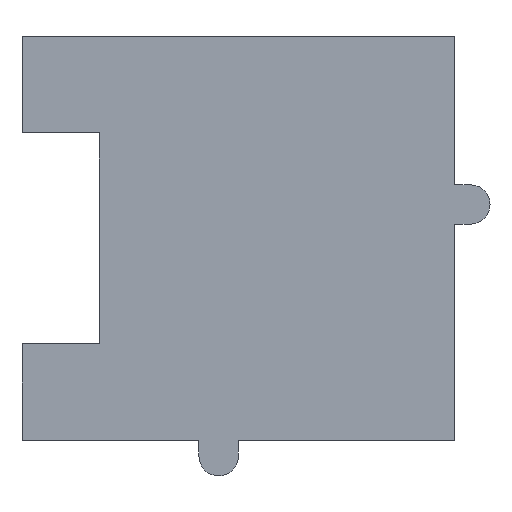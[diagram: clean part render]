
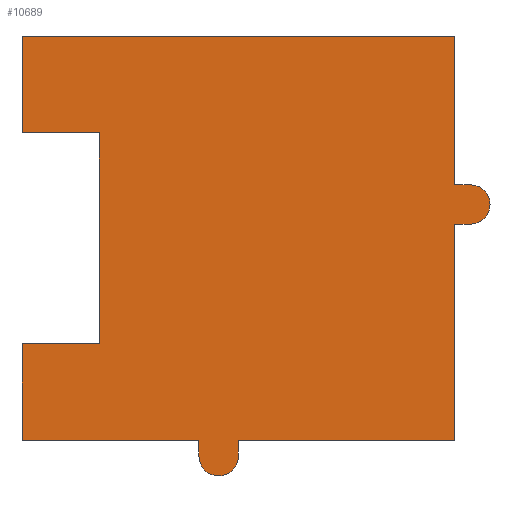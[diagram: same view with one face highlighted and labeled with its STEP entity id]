
A CAD part, front view. The second image highlights one B-rep face of the part: STEP entity #10689.
In plain terms, the highlighted planar face has unit normal (0, -1, 0).
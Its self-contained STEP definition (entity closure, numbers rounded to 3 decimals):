
#836 = VERTEX_POINT ( 'NONE', #8935 ) ;
#888 = ORIENTED_EDGE ( 'NONE', *, *, #14483, .T. ) ;
#1034 = VERTEX_POINT ( 'NONE', #10105 ) ;
#1042 = CARTESIAN_POINT ( 'NONE',  ( -1375., 0., 1285. ) ) ;
#1193 = EDGE_CURVE ( 'NONE', #14952, #5992, #12634, .T. ) ;
#1199 = LINE ( 'NONE', #12736, #13364 ) ;
#1330 = LINE ( 'NONE', #1042, #13005 ) ;
#1335 = CARTESIAN_POINT ( 'NONE',  ( -250., 0., -1385. ) ) ;
#1413 = VERTEX_POINT ( 'NONE', #12454 ) ;
#1702 = DIRECTION ( 'NONE',  ( 0., 0., 1. ) ) ;
#1842 = ORIENTED_EDGE ( 'NONE', *, *, #7591, .F. ) ;
#1952 = LINE ( 'NONE', #9688, #18340 ) ;
#1953 = VECTOR ( 'NONE', #15614, 1000. ) ;
#1954 = ORIENTED_EDGE ( 'NONE', *, *, #1193, .F. ) ;
#2162 = CARTESIAN_POINT ( 'NONE',  ( 1375., 0., 1285. ) ) ;
#2665 = ORIENTED_EDGE ( 'NONE', *, *, #11795, .F. ) ;
#2895 = LINE ( 'NONE', #8037, #15546 ) ;
#2899 = CARTESIAN_POINT ( 'NONE',  ( -1375., 0., 1285. ) ) ;
#3079 = DIRECTION ( 'NONE',  ( 0., -1., 0. ) ) ;
#3197 = CARTESIAN_POINT ( 'NONE',  ( 1375., 0., -1285. ) ) ;
#3296 = CARTESIAN_POINT ( 'NONE',  ( 1375., 0., 90. ) ) ;
#3343 = VERTEX_POINT ( 'NONE', #3197 ) ;
#3370 = DIRECTION ( 'NONE',  ( 0., 0., -1. ) ) ;
#3584 = CARTESIAN_POINT ( 'NONE',  ( 1475., 0., 215. ) ) ;
#3638 = LINE ( 'NONE', #16499, #7387 ) ;
#3695 = LINE ( 'NONE', #14194, #20089 ) ;
#3872 = EDGE_CURVE ( 'NONE', #836, #14952, #9544, .T. ) ;
#4499 = DIRECTION ( 'NONE',  ( 0., 0., 1. ) ) ;
#4590 = DIRECTION ( 'NONE',  ( 0., 0., 1. ) ) ;
#5194 = DIRECTION ( 'NONE',  ( 1., 0., 0. ) ) ;
#5239 = CIRCLE ( 'NONE', #17862, 125. ) ;
#5260 = CARTESIAN_POINT ( 'NONE',  ( -885., 0., 670. ) ) ;
#5543 = ORIENTED_EDGE ( 'NONE', *, *, #14863, .T. ) ;
#5802 = VECTOR ( 'NONE', #9427, 1000. ) ;
#5903 = DIRECTION ( 'NONE',  ( 1., 0., 0. ) ) ;
#5992 = VERTEX_POINT ( 'NONE', #3296 ) ;
#6000 = PLANE ( 'NONE',  #13324 ) ;
#6200 = ORIENTED_EDGE ( 'NONE', *, *, #7412, .F. ) ;
#6349 = DIRECTION ( 'NONE',  ( 0., -1., 0. ) ) ;
#6551 = EDGE_CURVE ( 'NONE', #20255, #836, #18989, .T. ) ;
#6832 = VERTEX_POINT ( 'NONE', #12318 ) ;
#6966 = DIRECTION ( 'NONE',  ( -1., 0., 0. ) ) ;
#7025 = LINE ( 'NONE', #2899, #19176 ) ;
#7080 = CARTESIAN_POINT ( 'NONE',  ( 0., 0., -1285. ) ) ;
#7249 = ORIENTED_EDGE ( 'NONE', *, *, #10781, .T. ) ;
#7285 = ORIENTED_EDGE ( 'NONE', *, *, #14019, .T. ) ;
#7387 = VECTOR ( 'NONE', #10215, 1000. ) ;
#7412 = EDGE_CURVE ( 'NONE', #9107, #8299, #1330, .T. ) ;
#7418 = VECTOR ( 'NONE', #6966, 1000. ) ;
#7494 = LINE ( 'NONE', #7711, #14924 ) ;
#7591 = EDGE_CURVE ( 'NONE', #3343, #9899, #14240, .T. ) ;
#7609 = DIRECTION ( 'NONE',  ( 0., 0., -1. ) ) ;
#7661 = CIRCLE ( 'NONE', #14385, 125. ) ;
#7711 = CARTESIAN_POINT ( 'NONE',  ( -1375., 0., -1285. ) ) ;
#7842 = VERTEX_POINT ( 'NONE', #5260 ) ;
#7860 = ORIENTED_EDGE ( 'NONE', *, *, #3872, .F. ) ;
#8037 = CARTESIAN_POINT ( 'NONE',  ( 1375., 0., 1285. ) ) ;
#8074 = AXIS2_PLACEMENT_3D ( 'NONE', #3584, #14694, #5194 ) ;
#8148 = CARTESIAN_POINT ( 'NONE',  ( 1475., 0., 90. ) ) ;
#8299 = VERTEX_POINT ( 'NONE', #2162 ) ;
#8592 = EDGE_CURVE ( 'NONE', #16208, #6832, #7494, .T. ) ;
#8935 = CARTESIAN_POINT ( 'NONE',  ( 1475., 0., 340. ) ) ;
#9107 = VERTEX_POINT ( 'NONE', #12363 ) ;
#9282 = EDGE_LOOP ( 'NONE', ( #12914, #9373, #18203, #5543, #16648, #7249, #888, #1842, #10837, #1954, #7860, #14035, #14140, #6200, #2665, #9768, #7285 ) ) ;
#9309 = DIRECTION ( 'NONE',  ( -1., 0., 0. ) ) ;
#9373 = ORIENTED_EDGE ( 'NONE', *, *, #19334, .F. ) ;
#9427 = DIRECTION ( 'NONE',  ( -1., 0., 0. ) ) ;
#9544 = CIRCLE ( 'NONE', #8074, 125. ) ;
#9569 = DIRECTION ( 'NONE',  ( 0., 0., -1. ) ) ;
#9688 = CARTESIAN_POINT ( 'NONE',  ( 1375., 0., 1285. ) ) ;
#9737 = DIRECTION ( 'NONE',  ( 1., 0., 0. ) ) ;
#9768 = ORIENTED_EDGE ( 'NONE', *, *, #11365, .T. ) ;
#9899 = VERTEX_POINT ( 'NONE', #7080 ) ;
#10026 = CARTESIAN_POINT ( 'NONE',  ( -1375., 0., -670. ) ) ;
#10105 = CARTESIAN_POINT ( 'NONE',  ( 0., 0., -1385. ) ) ;
#10215 = DIRECTION ( 'NONE',  ( -1., 0., 0. ) ) ;
#10336 = EDGE_CURVE ( 'NONE', #8299, #20255, #1952, .T. ) ;
#10580 = VECTOR ( 'NONE', #9737, 1000. ) ;
#10644 = LINE ( 'NONE', #15666, #14830 ) ;
#10689 = ADVANCED_FACE ( 'NONE', ( #20311 ), #6000, .T. ) ;
#10741 = CARTESIAN_POINT ( 'NONE',  ( 0., 0., 0. ) ) ;
#10781 = EDGE_CURVE ( 'NONE', #15245, #1034, #7661, .T. ) ;
#10837 = ORIENTED_EDGE ( 'NONE', *, *, #16154, .F. ) ;
#11275 = CARTESIAN_POINT ( 'NONE',  ( 1475., 0., 340. ) ) ;
#11365 = EDGE_CURVE ( 'NONE', #1413, #7842, #1199, .T. ) ;
#11388 = CARTESIAN_POINT ( 'NONE',  ( -885., 0., -670. ) ) ;
#11769 = CARTESIAN_POINT ( 'NONE',  ( 1375., 0., 90. ) ) ;
#11774 = VERTEX_POINT ( 'NONE', #20402 ) ;
#11795 = EDGE_CURVE ( 'NONE', #1413, #9107, #10644, .T. ) ;
#12048 = CARTESIAN_POINT ( 'NONE',  ( -125., 0., -1510. ) ) ;
#12229 = EDGE_CURVE ( 'NONE', #14896, #13535, #3638, .T. ) ;
#12318 = CARTESIAN_POINT ( 'NONE',  ( -1375., 0., -1285. ) ) ;
#12363 = CARTESIAN_POINT ( 'NONE',  ( -1375., 0., 1285. ) ) ;
#12454 = CARTESIAN_POINT ( 'NONE',  ( -1375., 0., 670. ) ) ;
#12532 = CARTESIAN_POINT ( 'NONE',  ( -885., 0., -670. ) ) ;
#12598 = CARTESIAN_POINT ( 'NONE',  ( -125., 0., -1385. ) ) ;
#12634 = LINE ( 'NONE', #11769, #7418 ) ;
#12673 = LINE ( 'NONE', #11388, #20112 ) ;
#12736 = CARTESIAN_POINT ( 'NONE',  ( -1375., 0., 670. ) ) ;
#12914 = ORIENTED_EDGE ( 'NONE', *, *, #12229, .T. ) ;
#13005 = VECTOR ( 'NONE', #5903, 1000. ) ;
#13324 = AXIS2_PLACEMENT_3D ( 'NONE', #10741, #17092, #7609 ) ;
#13354 = EDGE_CURVE ( 'NONE', #11774, #15245, #5239, .T. ) ;
#13364 = VECTOR ( 'NONE', #15889, 1000. ) ;
#13535 = VERTEX_POINT ( 'NONE', #10026 ) ;
#14019 = EDGE_CURVE ( 'NONE', #7842, #14896, #12673, .T. ) ;
#14035 = ORIENTED_EDGE ( 'NONE', *, *, #6551, .F. ) ;
#14140 = ORIENTED_EDGE ( 'NONE', *, *, #10336, .F. ) ;
#14171 = DIRECTION ( 'NONE',  ( 0., 0., -1. ) ) ;
#14194 = CARTESIAN_POINT ( 'NONE',  ( 0., 0., -1285. ) ) ;
#14240 = LINE ( 'NONE', #20517, #5802 ) ;
#14385 = AXIS2_PLACEMENT_3D ( 'NONE', #12598, #3079, #14171 ) ;
#14483 = EDGE_CURVE ( 'NONE', #1034, #9899, #3695, .T. ) ;
#14694 = DIRECTION ( 'NONE',  ( 0., 1., 0. ) ) ;
#14786 = CARTESIAN_POINT ( 'NONE',  ( 1375., 0., 340. ) ) ;
#14830 = VECTOR ( 'NONE', #4590, 1000. ) ;
#14863 = EDGE_CURVE ( 'NONE', #16208, #11774, #18839, .T. ) ;
#14896 = VERTEX_POINT ( 'NONE', #12532 ) ;
#14924 = VECTOR ( 'NONE', #9309, 1000. ) ;
#14952 = VERTEX_POINT ( 'NONE', #8148 ) ;
#15245 = VERTEX_POINT ( 'NONE', #12048 ) ;
#15546 = VECTOR ( 'NONE', #9569, 1000. ) ;
#15614 = DIRECTION ( 'NONE',  ( 0., 0., -1. ) ) ;
#15666 = CARTESIAN_POINT ( 'NONE',  ( -1375., 0., 1285. ) ) ;
#15813 = CARTESIAN_POINT ( 'NONE',  ( -125., 0., -1385. ) ) ;
#15889 = DIRECTION ( 'NONE',  ( 1., 0., 0. ) ) ;
#16154 = EDGE_CURVE ( 'NONE', #5992, #3343, #2895, .T. ) ;
#16208 = VERTEX_POINT ( 'NONE', #17667 ) ;
#16499 = CARTESIAN_POINT ( 'NONE',  ( -1375., 0., -670. ) ) ;
#16648 = ORIENTED_EDGE ( 'NONE', *, *, #13354, .T. ) ;
#17092 = DIRECTION ( 'NONE',  ( 0., -1., 0. ) ) ;
#17425 = DIRECTION ( 'NONE',  ( 0., 0., -1. ) ) ;
#17667 = CARTESIAN_POINT ( 'NONE',  ( -250., 0., -1285. ) ) ;
#17862 = AXIS2_PLACEMENT_3D ( 'NONE', #15813, #6349, #17425 ) ;
#18203 = ORIENTED_EDGE ( 'NONE', *, *, #8592, .F. ) ;
#18340 = VECTOR ( 'NONE', #3370, 1000. ) ;
#18839 = LINE ( 'NONE', #1335, #1953 ) ;
#18989 = LINE ( 'NONE', #11275, #10580 ) ;
#19176 = VECTOR ( 'NONE', #4499, 1000. ) ;
#19272 = DIRECTION ( 'NONE',  ( 0., 0., -1. ) ) ;
#19334 = EDGE_CURVE ( 'NONE', #6832, #13535, #7025, .T. ) ;
#20089 = VECTOR ( 'NONE', #1702, 1000. ) ;
#20112 = VECTOR ( 'NONE', #19272, 1000. ) ;
#20255 = VERTEX_POINT ( 'NONE', #14786 ) ;
#20311 = FACE_OUTER_BOUND ( 'NONE', #9282, .T. ) ;
#20402 = CARTESIAN_POINT ( 'NONE',  ( -250., 0., -1385. ) ) ;
#20517 = CARTESIAN_POINT ( 'NONE',  ( -1375., 0., -1285. ) ) ;
